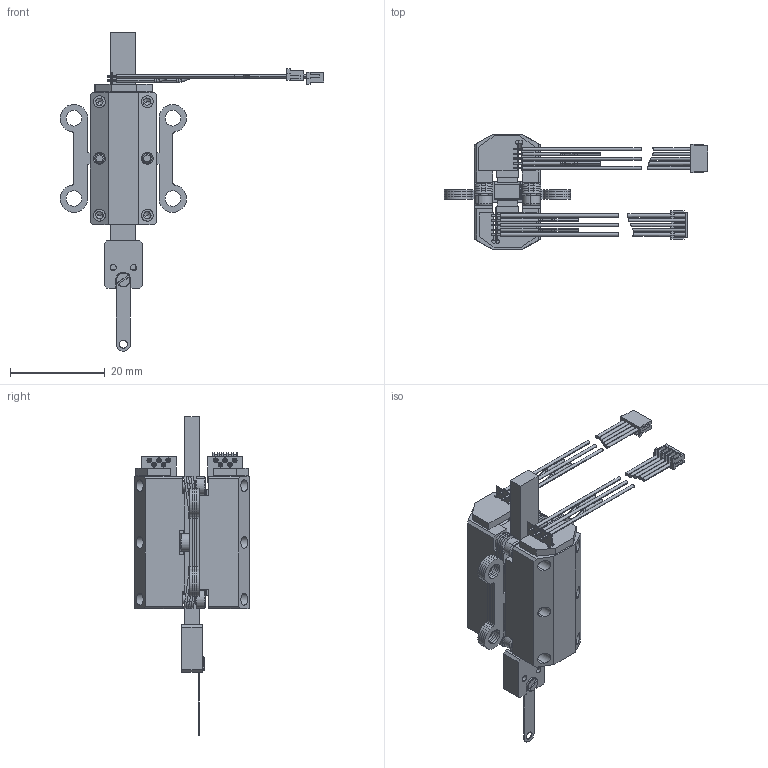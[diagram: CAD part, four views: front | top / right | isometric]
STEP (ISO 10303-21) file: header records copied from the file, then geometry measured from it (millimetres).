
FILE_DESCRIPTION (( 'STEP AP214' ), '1' );
FILE_NAME ('LT4040D-050D1B10-PiezoMotor.STEP', '2017-11-15T16:11:01', ( '' ), ( '' ), 'SwSTEP 2.0', 'SolidWorks 2017', '' );
FILE_SCHEMA (( 'AUTOMOTIVE_DESIGN' ));
Length unit declared in the file: millimetre
Products named in the file (5): LT4040D_DriveRod_050D1D2-PiezoMotor; LT4040D-050D1B10-PiezoMotor; LT4040D-xxxxxB10-PiezoMotor
Assembly tree (2 placements, depth 2):
  LT4040D_DriveRod_050D1D2-PiezoMotor
  LT4040D-050D1B10-PiezoMotor
    LT4040D-xxxxxB10-PiezoMotor
    LT4040D_DriveRod_050D1D2-PiezoMotor
  LT4040D-xxxxxB10-PiezoMotor
Bounding box: 55.69 x 24.18 x 67.35 mm (x, y, z)
Volume: 8241.4 mm3; surface area: 13448.6 mm2
Topology: 74 solids, 74 shells, 1344 faces, 3330 edges, 2123 vertices
Faces by surface type: plane 855, cylinder 396, cone 43, torus 40, bspline 10
Entity records: 40699 total; most frequent: CARTESIAN_POINT 7125, DIRECTION 6825, ORIENTED_EDGE 6636, EDGE_CURVE 3318, VECTOR 2395, LINE 2395, AXIS2_PLACEMENT_3D 2215, VERTEX_POINT 2123
